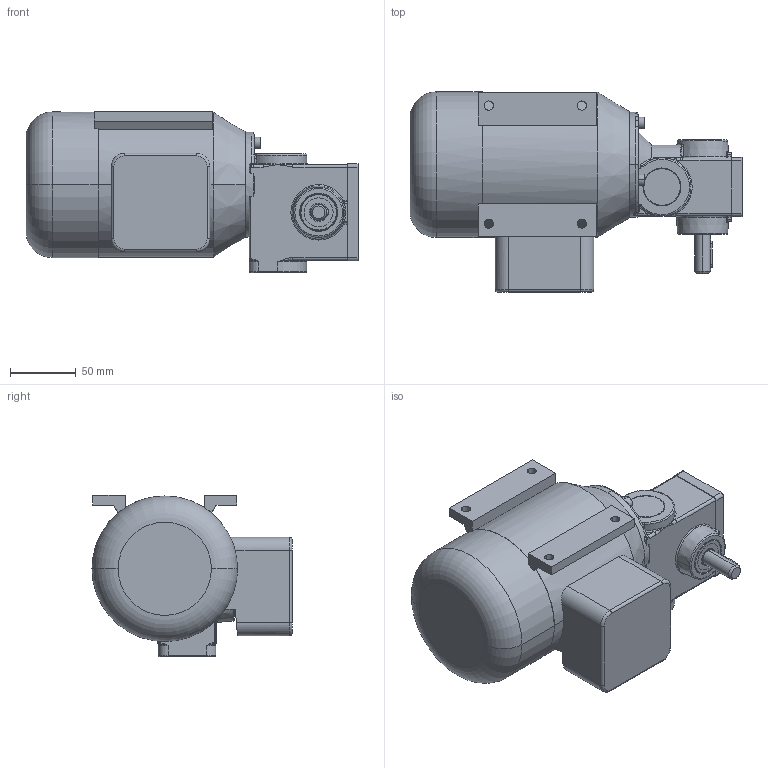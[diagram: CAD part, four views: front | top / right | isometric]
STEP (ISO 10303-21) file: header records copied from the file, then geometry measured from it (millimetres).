
FILE_DESCRIPTION (( 'STEP AP214' ), '1' );
FILE_NAME ('SN6_90W_1400Upm_Drehstrom-Motor_C.STEP', '2021-08-10T12:17:54', ( '' ), ( '' ), 'SwSTEP 2.0', 'SolidWorks 2019', '' );
FILE_SCHEMA (( 'AUTOMOTIVE_DESIGN' ));
Length unit declared in the file: millimetre
Products named in the file (12): SN6_3D_Export; NBR_WDR_12x28x7; 06-W-001_3D_Export; K_28x4.0; SN6_90W_1400Upm_Drehstrom-Motor_C; PF_A4x4x20; socket head cap screw_iso_ISO 4762 M5 x 16 - 16C; 06F-D-003_3D-Export; socket head cap screw_iso_ISO 4762 M3 x 10 - 10C; K_28x9.0; 06-M-017 I 90W_1400Upm_B3; 06-G-001_3D_Export
Assembly tree (17 placements, depth 3):
  SN6_90W_1400Upm_Drehstrom-Motor_C
    SN6_3D_Export
      06-G-001_3D_Export
      06F-D-003_3D-Export
      06-W-001_3D_Export
      PF_A4x4x20
      NBR_WDR_12x28x7
      K_28x9.0
      K_28x4.0  x2
      socket head cap screw_iso_ISO 4762 M5 x 16 - 16C  x3
      socket head cap screw_iso_ISO 4762 M3 x 10 - 10C  x4
    06-M-017 I 90W_1400Upm_B3
Bounding box: 253 x 152.5 x 123 mm (x, y, z)
Volume: 2153099.3 mm3; surface area: 161206.7 mm2
Topology: 16 solids, 16 shells, 630 faces, 1464 edges, 859 vertices
Faces by surface type: plane 213, cylinder 211, cone 84, torus 69, bspline 42, sphere 11
Entity records: 16183 total; most frequent: CARTESIAN_POINT 4403, DIRECTION 2498, ORIENTED_EDGE 2232, EDGE_CURVE 1116, AXIS2_PLACEMENT_3D 1023, VERTEX_POINT 685, CIRCLE 556, EDGE_LOOP 549
